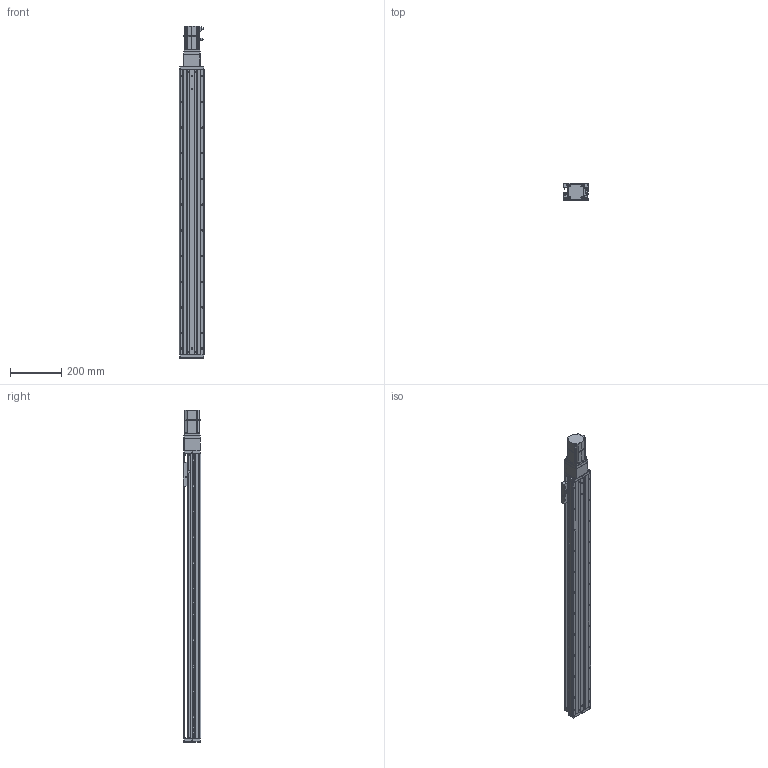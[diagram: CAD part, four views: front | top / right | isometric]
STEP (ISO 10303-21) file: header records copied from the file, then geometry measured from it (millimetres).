
FILE_DESCRIPTION (( 'STEP AP203' ), '1' );
FILE_NAME ('KTHA100-950-BC-M20-C4L.step', '2022-04-26T01:46:15', ( '微软用户' ), ( '微软中国' ), 'SwSTEP 2.0', 'SolidWorks 2020', '' );
FILE_SCHEMA (( 'CONFIG_CONTROL_DESIGN' ));
Length unit declared in the file: millimetre
Products named in the file (18): CTHA60-021; CTHA86-013; KTHA100-002; GBT77-2000 M3×3; CTHA86-027; KTHA100-004; GBT 70.1-M3℅6; KTHA100-005; GBT70.1 M5℅16; GB¨uT 70.2-M3¡Á5_M3¡Á6; CTHA60-016; CTHA86-006-1_CTHA86-006-2; EE_SX911P_R; GBT 70.3-M3℅6; KTHA100-950-BC-M20-C4L; CTHA60-017; _X2_4E0983F1_X0_200W_1; KTHA100-001_1110
Assembly tree (56 placements, depth 2):
  KTHA100-950-BC-M20-C4L
    KTHA100-001_1110
    KTHA100-002
    KTHA100-004
    KTHA100-005
    GB¨uT 70.2-M3¡Á5_M3¡Á6  x6
    EE_SX911P_R  x3
    CTHA60-017  x3
    CTHA60-021  x2
    GBT77-2000 M3×3  x6
    GBT 70.1-M3℅6  x6
    GBT70.1 M5℅16  x14
    CTHA60-016  x2
    GBT 70.3-M3℅6  x6
    _X2_4E0983F1_X0_200W_1
    CTHA86-013
    CTHA86-027
    CTHA86-006-1_CTHA86-006-2
Bounding box: 98.82 x 68 x 1292.5 mm (x, y, z)
Volume: 4771192 mm3; surface area: 786737.7 mm2
Topology: 59 solids, 59 shells, 2487 faces, 5968 edges, 3688 vertices
Faces by surface type: plane 1275, cylinder 685, cone 338, torus 104, bspline 69, sphere 16
Entity records: 44182 total; most frequent: CARTESIAN_POINT 8423, DIRECTION 6989, ORIENTED_EDGE 6704, EDGE_CURVE 3352, AXIS2_PLACEMENT_3D 2426, VECTOR 2137, LINE 2137, VERTEX_POINT 2106
